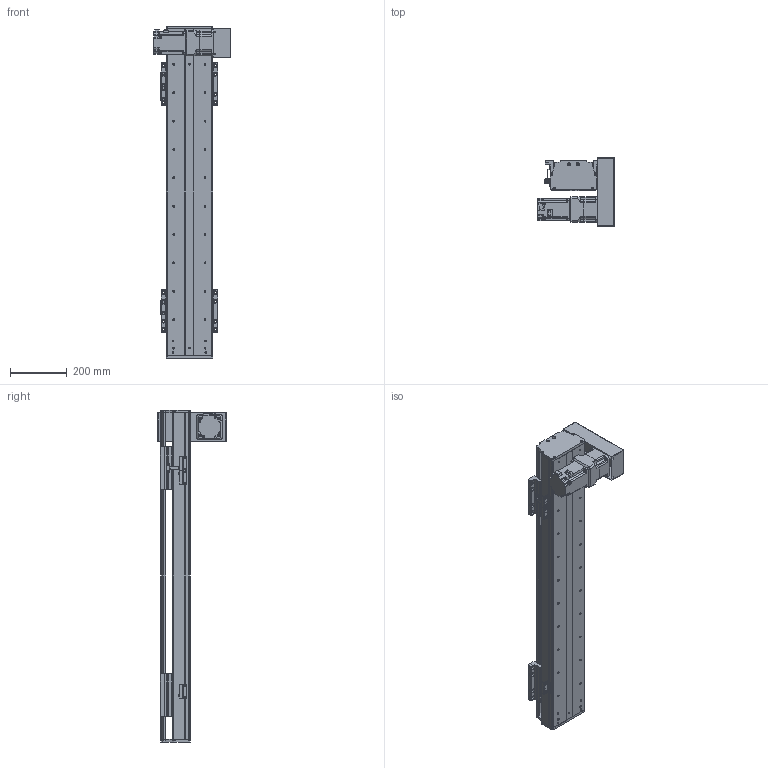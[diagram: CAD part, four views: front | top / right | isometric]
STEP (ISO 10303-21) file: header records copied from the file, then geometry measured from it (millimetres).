
FILE_DESCRIPTION(/* description */ (''),/* implementation_level */ '2;1');
FILE_NAME(/* name */ 'C:\Users\PC\Desktop\3D도면\STEP\새 폴더\DSB165-DR7G-W0800-L.stp',/* time_stamp */ '2018-06-25T15:57:15+09:00',/* author */ ('PC'),/* organization */ (''),/* preprocessor_version */ 'ST-DEVELOPER v16.5',/* originating_system */ 'Autodesk Inventor 2017',/* authorisation */ '');
FILE_SCHEMA (('AUTOMOTIVE_DESIGN { 1 0 10303 214 3 1 1 }'));
Length unit declared in the file: millimetre
Products named in the file (12): DSB165-DL7G-W0800-R_MIR; DSB165-BASE-L_MIR; hg-kr73__MIR; ab0901-p0401300102_MIR; 11-DSB165 BELT COVER_MIR; 12-DSB165-REAR COVER_MIR; 14-DSB165-FRONT COVER_MIR; DSB165-UP COVER_MIR; DSB165-TABLE(MSB20S)_MIR; DSR165-SENSOR DOG_MIR; SENSOR BRACKET(EE-SX674A)_MIR; pm-y65_step_MIR
Assembly tree (16 placements, depth 2):
  DSB165-DL7G-W0800-R_MIR
    DSB165-BASE-L_MIR
    hg-kr73__MIR
    ab0901-p0401300102_MIR
    11-DSB165 BELT COVER_MIR
    12-DSB165-REAR COVER_MIR
    14-DSB165-FRONT COVER_MIR
    DSB165-UP COVER_MIR
    DSB165-TABLE(MSB20S)_MIR  x2
    DSR165-SENSOR DOG_MIR
    pm-y65_step_MIR  x3
    SENSOR BRACKET(EE-SX674A)_MIR  x3
Bounding box: 270 x 242 x 1170 mm (x, y, z)
Volume: 7953912.3 mm3; surface area: 1835941.6 mm2
Topology: 17 solids, 17 shells, 1657 faces, 4454 edges, 2936 vertices
Faces by surface type: plane 921, cylinder 614, cone 110, sphere 8, torus 4
Full cylindrical faces by diameter (mm): 2.459 x20, 3.5 x6, 4.134 x42, 4.5 x18, 5 x27, 5.5 x36, 5.9 x4, 6 x4, 6.6 x14, 6.647 x38, 6.8 x1, 7 x4, 7.6 x4, 8.4 x1, 8.5 x24, 8.7 x1, 9.5 x32, 11 x6, 14 x16, 19 x1, 22 x1, 24 x1, 25 x1, 28 x1, 67 x1, 70 x2, 80 x1
Entity records: 35920 total; most frequent: DIRECTION 6218, CARTESIAN_POINT 6039, ORIENTED_EDGE 5514, EDGE_CURVE 2757, AXIS2_PLACEMENT_3D 2279, VERTEX_POINT 1962, EDGE_LOOP 1711, LINE 1660
